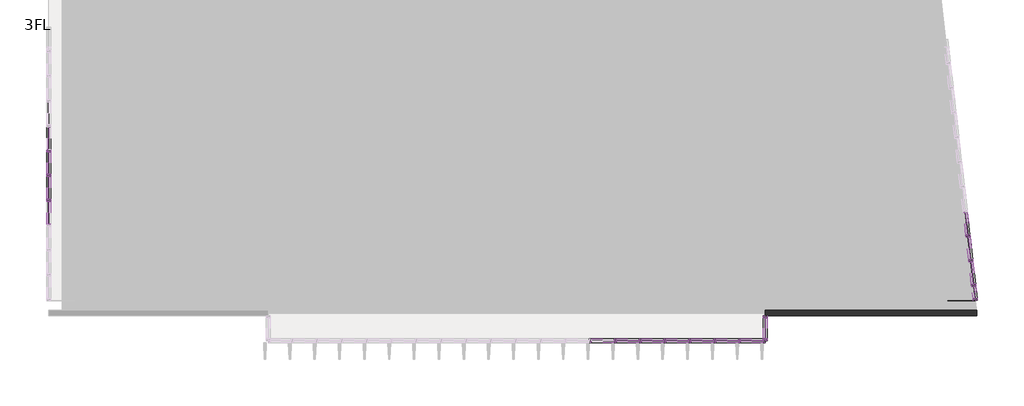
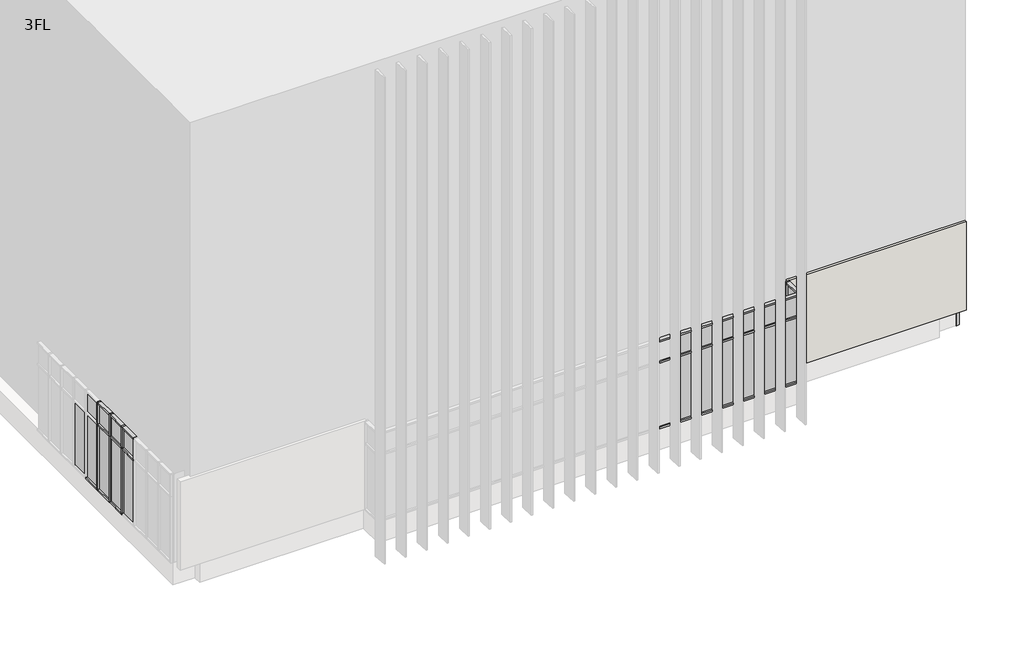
# One storey, part 2 of 5: 85 members, 37 plates, 1 wall.
"""IFC4 building model written with IfcOpenShell, lengths in millimetres."""

from ifc_helpers import new_model, si_unit, frame, origin, place, context, project, spatial, polyline, outline, extrude, transform, mapped, element, save
from components import member_70x150_cdd4dcf9, member_70x150_9a135ce4, member_70x150_66cf63de, member_70x150_26475b18, member_70x150_ad4265bc, member_70x150_e0eddb57, member_70x150_1b280ac3, member_70x150_76429c73, member_70x150_98b0aed0, member_70x150_87b27eb4, plate_d1366ea1, plate_5a60b334, plate_28587fd3, plate_4b01b467, plate_396bcf3c, plate_83f08a3e, plate_46ceffe4, plate_a71482e5, plate_9aa423f5

model = new_model("IFC4")

# Units and contexts
model_context = context("Model", 3, world=origin())
ifc_project = project(units=[si_unit("LENGTHUNIT", "METRE", prefix="MILLI")], contexts=[model_context])

# Site, building, storey
site = spatial("IfcSite", under=ifc_project)
building = spatial("IfcBuilding", under=site)
storey = spatial("IfcBuildingStorey", under=building, Name="3FL", Elevation=8600.0)

# Members
placement = place(None, origin())
member_70x150_shape = member_70x150_cdd4dcf9(model_context)
element("IfcMember", 1, ObjectType="長方形のマリオン : 70x150", at=placement, inside=storey, context=model_context, shape_type="MappedRepresentation", body=[
    mapped(member_70x150_shape, transform((-9730.9784025, -4550.3131013, 8600.0), x_axis=(-1.0, 0.0, 0.0), y_axis=(0.0, 1.0, 0.0), z_axis=(0.0, 0.0, -1.0))),
])
element("IfcMember", 2, ObjectType="長方形のマリオン : 70x150", at=placement, inside=storey, context=model_context, shape_type="MappedRepresentation", body=[
    mapped(member_70x150_shape, transform((-8830.9784025, -4550.3131013, 8600.0), x_axis=(-1.0, 0.0, 0.0), y_axis=(0.0, 1.0, 0.0), z_axis=(0.0, 0.0, -1.0))),
])
element("IfcMember", 3, ObjectType="長方形のマリオン : 70x150", at=placement, inside=storey, context=model_context, shape_type="MappedRepresentation", body=[
    mapped(member_70x150_shape, transform((-7930.9784025, -4550.3131013, 8600.0), x_axis=(-1.0, 0.0, 0.0), y_axis=(0.0, 1.0, 0.0), z_axis=(0.0, 0.0, -1.0))),
])
element("IfcMember", 4, ObjectType="長方形のマリオン : 70x150", at=placement, inside=storey, context=model_context, shape_type="MappedRepresentation", body=[
    mapped(member_70x150_shape, transform((-7030.9784025, -4550.3131013, 8600.0), x_axis=(-1.0, 0.0, 0.0), y_axis=(0.0, 1.0, 0.0), z_axis=(0.0, 0.0, -1.0))),
])
element("IfcMember", 5, ObjectType="長方形のマリオン : 70x150", at=placement, inside=storey, context=model_context, shape_type="MappedRepresentation", body=[
    mapped(member_70x150_shape, transform((-6130.9784025, -4550.3131013, 8600.0), x_axis=(-1.0, 0.0, 0.0), y_axis=(0.0, 1.0, 0.0), z_axis=(0.0, 0.0, -1.0))),
])
element("IfcMember", 6, ObjectType="長方形のマリオン : 70x150", at=placement, inside=storey, context=model_context, shape_type="MappedRepresentation", body=[
    mapped(member_70x150_shape, transform((-5230.9784025, -4550.3131013, 8600.0), x_axis=(-1.0, 0.0, 0.0), y_axis=(0.0, 1.0, 0.0), z_axis=(0.0, 0.0, -1.0))),
])
element("IfcMember", 7, ObjectType="長方形のマリオン : 70x150", at=placement, inside=storey, context=model_context, shape_type="MappedRepresentation", body=[
    mapped(member_70x150_shape, transform((-4330.9784025, -4550.3131013, 8600.0), x_axis=(-1.0, 0.0, 0.0), y_axis=(0.0, 1.0, 0.0), z_axis=(0.0, 0.0, -1.0))),
])
element("IfcMember", 8, ObjectType="長方形のマリオン : 70x150", at=placement, inside=storey, context=model_context, shape_type="MappedRepresentation", body=[
    mapped(member_70x150_shape, transform((-29345.9784025, 2334.6868987, 8600.0), x_axis=(0.0, 1.0, 0.0), y_axis=(1.0, 0.0, 0.0), z_axis=(0.0, 0.0, -1.0))),
])
element("IfcMember", 9, ObjectType="長方形のマリオン : 70x150", at=placement, inside=storey, context=model_context, shape_type="MappedRepresentation", body=[
    mapped(member_70x150_shape, transform((-29345.9784025, 1434.6868987, 8600.0), x_axis=(0.0, 1.0, 0.0), y_axis=(1.0, 0.0, 0.0), z_axis=(0.0, 0.0, -1.0))),
])
element("IfcMember", 10, ObjectType="長方形のマリオン : 70x150", at=placement, inside=storey, context=model_context, shape_type="MappedRepresentation", body=[
    mapped(member_70x150_shape, transform((-29345.9784025, 534.6868987, 8600.0), x_axis=(0.0, 1.0, 0.0), y_axis=(1.0, 0.0, 0.0), z_axis=(0.0, 0.0, -1.0))),
])
member_70x150_2_shape = member_70x150_9a135ce4(model_context)
element("IfcMember", 11, ObjectType="長方形のマリオン : 70x150", at=placement, inside=storey, context=model_context, shape_type="MappedRepresentation", body=[
    mapped(member_70x150_2_shape, transform((-3395.9784025, -4480.3131013, 12600.0), x_axis=(0.0, 0.0, 1.0), y_axis=(-1.0, 0.0, 0.0), z_axis=(0.0, -1.0, 0.0))),
])
member_70x150_3_shape = member_70x150_66cf63de(model_context)
element("IfcMember", 12, ObjectType="長方形のマリオン : 70x150", at=placement, inside=storey, context=model_context, shape_type="MappedRepresentation", body=[
    mapped(member_70x150_3_shape, transform((4049.1663334, -1688.3720639, 7600.0), x_axis=(0.0, 0.0, -1.0), y_axis=(-0.9935326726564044, -0.11354659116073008, 0.0), z_axis=(-0.11354659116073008, 0.9935326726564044, 0.0))),
])
element("IfcMember", 13, ObjectType="長方形のマリオン : 70x150", at=placement, inside=storey, context=model_context, shape_type="MappedRepresentation", body=[
    mapped(member_70x150_3_shape, transform((3946.9744014, -794.1926585, 7600.0), x_axis=(0.0, 0.0, -1.0), y_axis=(-0.9935326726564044, -0.1135465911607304, 0.0), z_axis=(-0.11354659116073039, 0.9935326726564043, 0.0))),
])
element("IfcMember", 14, ObjectType="長方形のマリオン : 70x150", at=placement, inside=storey, context=model_context, shape_type="MappedRepresentation", body=[
    mapped(member_70x150_3_shape, transform((-8865.9784025, -4550.3131013, 8600.0), x_axis=(0.0, 0.0, -1.0), y_axis=(0.0, 1.0, 0.0), z_axis=(1.0, 0.0, 0.0))),
])
element("IfcMember", 15, ObjectType="長方形のマリオン : 70x150", at=placement, inside=storey, context=model_context, shape_type="MappedRepresentation", body=[
    mapped(member_70x150_3_shape, transform((-7965.9784025, -4550.3131013, 8600.0), x_axis=(0.0, 0.0, -1.0), y_axis=(0.0, 1.0, 0.0), z_axis=(1.0, 0.0, 0.0))),
])
element("IfcMember", 16, ObjectType="長方形のマリオン : 70x150", at=placement, inside=storey, context=model_context, shape_type="MappedRepresentation", body=[
    mapped(member_70x150_3_shape, transform((-7065.9784025, -4550.3131013, 8600.0), x_axis=(0.0, 0.0, -1.0), y_axis=(0.0, 1.0, 0.0), z_axis=(1.0, 0.0, 0.0))),
])
element("IfcMember", 17, ObjectType="長方形のマリオン : 70x150", at=placement, inside=storey, context=model_context, shape_type="MappedRepresentation", body=[
    mapped(member_70x150_3_shape, transform((-6165.9784025, -4550.3131013, 8600.0), x_axis=(0.0, 0.0, -1.0), y_axis=(0.0, 1.0, 0.0), z_axis=(1.0, 0.0, 0.0))),
])
element("IfcMember", 18, ObjectType="長方形のマリオン : 70x150", at=placement, inside=storey, context=model_context, shape_type="MappedRepresentation", body=[
    mapped(member_70x150_3_shape, transform((-5265.9784025, -4550.3131013, 8600.0), x_axis=(0.0, 0.0, -1.0), y_axis=(0.0, 1.0, 0.0), z_axis=(1.0, 0.0, 0.0))),
])
element("IfcMember", 19, ObjectType="長方形のマリオン : 70x150", at=placement, inside=storey, context=model_context, shape_type="MappedRepresentation", body=[
    mapped(member_70x150_3_shape, transform((-4365.9784025, -4550.3131013, 8600.0), x_axis=(0.0, 0.0, -1.0), y_axis=(0.0, 1.0, 0.0), z_axis=(1.0, 0.0, 0.0))),
])
element("IfcMember", 20, ObjectType="長方形のマリオン : 70x150", at=placement, inside=storey, context=model_context, shape_type="MappedRepresentation", body=[
    mapped(member_70x150_3_shape, transform((-3465.9784025, -4550.3131013, 8600.0), x_axis=(0.0, 0.0, -1.0), y_axis=(0.0, 1.0, 0.0), z_axis=(1.0, 0.0, 0.0))),
])
element("IfcMember", 21, ObjectType="長方形のマリオン : 70x150", at=placement, inside=storey, context=model_context, shape_type="MappedRepresentation", body=[
    mapped(member_70x150_3_shape, transform((-29345.9784025, 1469.6868987, 8600.0), x_axis=(0.0, 0.0, -1.0), y_axis=(1.0, 0.0, 0.0), z_axis=(0.0, -1.0, 0.0))),
])
element("IfcMember", 22, ObjectType="長方形のマリオン : 70x150", at=placement, inside=storey, context=model_context, shape_type="MappedRepresentation", body=[
    mapped(member_70x150_3_shape, transform((-29345.9784025, 569.6868987, 8600.0), x_axis=(0.0, 0.0, -1.0), y_axis=(1.0, 0.0, 0.0), z_axis=(0.0, -1.0, 0.0))),
])
element("IfcMember", 23, ObjectType="長方形のマリオン : 70x150", at=placement, inside=storey, context=model_context, shape_type="MappedRepresentation", body=[
    mapped(member_70x150_3_shape, transform((-29345.9784025, 2369.6868987, 8600.0), x_axis=(0.0, 0.0, -1.0), y_axis=(1.0, 0.0, 0.0), z_axis=(0.0, -1.0, 0.0))),
])
element("IfcMember", 24, ObjectType="長方形のマリオン : 70x150", at=placement, inside=storey, context=model_context, shape_type="MappedRepresentation", body=[
    mapped(member_70x150_3_shape, transform((4143.4100041, -2513.0041822, 12600.0), x_axis=(0.0, 0.0, 1.0), y_axis=(-0.9935326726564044, -0.11354659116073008, 0.0), z_axis=(0.11354659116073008, -0.9935326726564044, 0.0))),
])
element("IfcMember", 25, ObjectType="長方形のマリオン : 70x150", at=placement, inside=storey, context=model_context, shape_type="MappedRepresentation", body=[
    mapped(member_70x150_3_shape, transform((4041.2180721, -1618.8247768, 12600.0), x_axis=(0.0, 0.0, 1.0), y_axis=(-0.9935326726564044, -0.1135465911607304, 0.0), z_axis=(0.11354659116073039, -0.9935326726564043, 0.0))),
])
element("IfcMember", 26, ObjectType="長方形のマリオン : 70x150", at=placement, inside=storey, context=model_context, shape_type="MappedRepresentation", body=[
    mapped(member_70x150_3_shape, transform((3939.02614, -724.6453714, 12600.0), x_axis=(0.0, 0.0, 1.0), y_axis=(-0.9935326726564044, -0.11354659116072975, 0.0), z_axis=(0.11354659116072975, -0.9935326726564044, 0.0))),
])
element("IfcMember", 27, ObjectType="長方形のマリオン : 70x150", at=placement, inside=storey, context=model_context, shape_type="MappedRepresentation", body=[
    mapped(member_70x150_3_shape, transform((-9695.9784025, -4550.3131013, 12600.0), x_axis=(0.0, 0.0, 1.0), y_axis=(0.0, 1.0, 0.0), z_axis=(-1.0, 0.0, 0.0))),
])
element("IfcMember", 28, ObjectType="長方形のマリオン : 70x150", at=placement, inside=storey, context=model_context, shape_type="MappedRepresentation", body=[
    mapped(member_70x150_3_shape, transform((-8795.9784025, -4550.3131013, 12600.0), x_axis=(0.0, 0.0, 1.0), y_axis=(0.0, 1.0, 0.0), z_axis=(-1.0, 0.0, 0.0))),
])
element("IfcMember", 29, ObjectType="長方形のマリオン : 70x150", at=placement, inside=storey, context=model_context, shape_type="MappedRepresentation", body=[
    mapped(member_70x150_3_shape, transform((-7895.9784025, -4550.3131013, 12600.0), x_axis=(0.0, 0.0, 1.0), y_axis=(0.0, 1.0, 0.0), z_axis=(-1.0, 0.0, 0.0))),
])
element("IfcMember", 30, ObjectType="長方形のマリオン : 70x150", at=placement, inside=storey, context=model_context, shape_type="MappedRepresentation", body=[
    mapped(member_70x150_3_shape, transform((-6995.9784025, -4550.3131013, 12600.0), x_axis=(0.0, 0.0, 1.0), y_axis=(0.0, 1.0, 0.0), z_axis=(-1.0, 0.0, 0.0))),
])
element("IfcMember", 31, ObjectType="長方形のマリオン : 70x150", at=placement, inside=storey, context=model_context, shape_type="MappedRepresentation", body=[
    mapped(member_70x150_3_shape, transform((-6095.9784025, -4550.3131013, 12600.0), x_axis=(0.0, 0.0, 1.0), y_axis=(0.0, 1.0, 0.0), z_axis=(-1.0, 0.0, 0.0))),
])
element("IfcMember", 32, ObjectType="長方形のマリオン : 70x150", at=placement, inside=storey, context=model_context, shape_type="MappedRepresentation", body=[
    mapped(member_70x150_3_shape, transform((-5195.9784025, -4550.3131013, 12600.0), x_axis=(0.0, 0.0, 1.0), y_axis=(0.0, 1.0, 0.0), z_axis=(-1.0, 0.0, 0.0))),
])
element("IfcMember", 33, ObjectType="長方形のマリオン : 70x150", at=placement, inside=storey, context=model_context, shape_type="MappedRepresentation", body=[
    mapped(member_70x150_3_shape, transform((-4295.9784025, -4550.3131013, 12600.0), x_axis=(0.0, 0.0, 1.0), y_axis=(0.0, 1.0, 0.0), z_axis=(-1.0, 0.0, 0.0))),
])
element("IfcMember", 34, ObjectType="長方形のマリオン : 70x150", at=placement, inside=storey, context=model_context, shape_type="MappedRepresentation", body=[
    mapped(member_70x150_3_shape, transform((-29345.9784025, 2299.6868987, 12600.0), x_axis=(0.0, 0.0, 1.0), y_axis=(1.0, 0.0, 0.0), z_axis=(0.0, 1.0, 0.0))),
])
element("IfcMember", 35, ObjectType="長方形のマリオン : 70x150", at=placement, inside=storey, context=model_context, shape_type="MappedRepresentation", body=[
    mapped(member_70x150_3_shape, transform((-29345.9784025, 1399.6868987, 12600.0), x_axis=(0.0, 0.0, 1.0), y_axis=(1.0, 0.0, 0.0), z_axis=(0.0, 1.0, 0.0))),
])
element("IfcMember", 36, ObjectType="長方形のマリオン : 70x150", at=placement, inside=storey, context=model_context, shape_type="MappedRepresentation", body=[
    mapped(member_70x150_3_shape, transform((-29345.9784025, 499.6868987, 12600.0), x_axis=(0.0, 0.0, 1.0), y_axis=(1.0, 0.0, 0.0), z_axis=(0.0, 1.0, 0.0))),
])
element("IfcMember", 37, ObjectType="長方形のマリオン : 70x150", at=placement, inside=storey, context=model_context, shape_type="MappedRepresentation", body=[
    mapped(member_70x150_2_shape, transform((-3395.9784025, -3720.3131013, 8600.0), x_axis=(0.0, 0.0, -1.0), y_axis=(-1.0, 0.0, 0.0), z_axis=(0.0, 1.0, 0.0))),
])
member_70x150_4_shape = member_70x150_26475b18(model_context)
element("IfcMember", 38, ObjectType="長方形のマリオン : 70x150", at=placement, inside=storey, context=model_context, shape_type="MappedRepresentation", body=[
    mapped(member_70x150_4_shape, transform((4045.1922027, -1653.5984203, 11600.0), x_axis=(0.11354659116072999, -0.9935326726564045, 0.0), y_axis=(-0.9935326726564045, -0.11354659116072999, 0.0), z_axis=(0.0, 0.0, -1.0))),
])
element("IfcMember", 39, ObjectType="長方形のマリオン : 70x150", at=placement, inside=storey, context=model_context, shape_type="MappedRepresentation", body=[
    mapped(member_70x150_4_shape, transform((3943.0002707, -759.4190149, 11600.0), x_axis=(0.11354659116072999, -0.9935326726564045, 0.0), y_axis=(-0.9935326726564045, -0.11354659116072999, 0.0), z_axis=(0.0, 0.0, -1.0))),
])
element("IfcMember", 40, ObjectType="長方形のマリオン : 70x150", at=placement, inside=storey, context=model_context, shape_type="MappedRepresentation", body=[
    mapped(member_70x150_4_shape, transform((4147.3841348, -2547.7778257, 11600.0), x_axis=(0.11354659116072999, -0.9935326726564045, 0.0), y_axis=(-0.9935326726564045, -0.11354659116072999, 0.0), z_axis=(0.0, 0.0, -1.0))),
])
element("IfcMember", 41, ObjectType="長方形のマリオン : 70x150", at=placement, inside=storey, context=model_context, shape_type="MappedRepresentation", body=[
    mapped(member_70x150_4_shape, transform((-8830.9784025, -4550.3131013, 11600.0), x_axis=(-1.0, 0.0, 0.0), y_axis=(0.0, 1.0, 0.0), z_axis=(0.0, 0.0, -1.0))),
])
element("IfcMember", 42, ObjectType="長方形のマリオン : 70x150", at=placement, inside=storey, context=model_context, shape_type="MappedRepresentation", body=[
    mapped(member_70x150_4_shape, transform((-7930.9784025, -4550.3131013, 11600.0), x_axis=(-1.0, 0.0, 0.0), y_axis=(0.0, 1.0, 0.0), z_axis=(0.0, 0.0, -1.0))),
])
element("IfcMember", 43, ObjectType="長方形のマリオン : 70x150", at=placement, inside=storey, context=model_context, shape_type="MappedRepresentation", body=[
    mapped(member_70x150_4_shape, transform((-7030.9784025, -4550.3131013, 11600.0), x_axis=(-1.0, 0.0, 0.0), y_axis=(0.0, 1.0, 0.0), z_axis=(0.0, 0.0, -1.0))),
])
element("IfcMember", 44, ObjectType="長方形のマリオン : 70x150", at=placement, inside=storey, context=model_context, shape_type="MappedRepresentation", body=[
    mapped(member_70x150_4_shape, transform((-6130.9784025, -4550.3131013, 11600.0), x_axis=(-1.0, 0.0, 0.0), y_axis=(0.0, 1.0, 0.0), z_axis=(0.0, 0.0, -1.0))),
])
element("IfcMember", 45, ObjectType="長方形のマリオン : 70x150", at=placement, inside=storey, context=model_context, shape_type="MappedRepresentation", body=[
    mapped(member_70x150_4_shape, transform((-5230.9784025, -4550.3131013, 11600.0), x_axis=(-1.0, 0.0, 0.0), y_axis=(0.0, 1.0, 0.0), z_axis=(0.0, 0.0, -1.0))),
])
element("IfcMember", 46, ObjectType="長方形のマリオン : 70x150", at=placement, inside=storey, context=model_context, shape_type="MappedRepresentation", body=[
    mapped(member_70x150_4_shape, transform((-4330.9784025, -4550.3131013, 11600.0), x_axis=(-1.0, 0.0, 0.0), y_axis=(0.0, 1.0, 0.0), z_axis=(0.0, 0.0, -1.0))),
])
element("IfcMember", 47, ObjectType="長方形のマリオン : 70x150", at=placement, inside=storey, context=model_context, shape_type="MappedRepresentation", body=[
    mapped(member_70x150_4_shape, transform((-29345.9784025, 2334.6868987, 11600.0), x_axis=(0.0, 1.0, 0.0), y_axis=(1.0, 0.0, 0.0), z_axis=(0.0, 0.0, -1.0))),
])
element("IfcMember", 48, ObjectType="長方形のマリオン : 70x150", at=placement, inside=storey, context=model_context, shape_type="MappedRepresentation", body=[
    mapped(member_70x150_4_shape, transform((-29345.9784025, 1434.6868987, 11600.0), x_axis=(0.0, 1.0, 0.0), y_axis=(1.0, 0.0, 0.0), z_axis=(0.0, 0.0, -1.0))),
])
element("IfcMember", 49, ObjectType="長方形のマリオン : 70x150", at=placement, inside=storey, context=model_context, shape_type="MappedRepresentation", body=[
    mapped(member_70x150_4_shape, transform((-29345.9784025, 534.6868987, 11600.0), x_axis=(0.0, 1.0, 0.0), y_axis=(1.0, 0.0, 0.0), z_axis=(0.0, 0.0, -1.0))),
])
member_70x150_5_shape = member_70x150_ad4265bc(model_context)
element("IfcMember", 50, ObjectType="長方形のマリオン : 70x150", at=placement, inside=storey, context=model_context, shape_type="MappedRepresentation", body=[
    mapped(member_70x150_5_shape, transform((4143.4100041, -2513.0041822, 8600.0), x_axis=(0.0, 0.0, 1.0), y_axis=(-0.9935326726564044, -0.11354659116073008, 0.0), z_axis=(0.11354659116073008, -0.9935326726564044, 0.0))),
])
element("IfcMember", 51, ObjectType="長方形のマリオン : 70x150", at=placement, inside=storey, context=model_context, shape_type="MappedRepresentation", body=[
    mapped(member_70x150_5_shape, transform((4041.2180721, -1618.8247768, 8600.0), x_axis=(0.0, 0.0, 1.0), y_axis=(-0.9935326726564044, -0.1135465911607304, 0.0), z_axis=(0.11354659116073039, -0.9935326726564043, 0.0))),
])
element("IfcMember", 52, ObjectType="長方形のマリオン : 70x150", at=placement, inside=storey, context=model_context, shape_type="MappedRepresentation", body=[
    mapped(member_70x150_5_shape, transform((3939.02614, -724.6453714, 8600.0), x_axis=(0.0, 0.0, 1.0), y_axis=(-0.9935326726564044, -0.11354659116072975, 0.0), z_axis=(0.11354659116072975, -0.9935326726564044, 0.0))),
])
element("IfcMember", 53, ObjectType="長方形のマリオン : 70x150", at=placement, inside=storey, context=model_context, shape_type="MappedRepresentation", body=[
    mapped(member_70x150_5_shape, transform((3939.02614, -724.6453714, 11600.0), x_axis=(0.0, 0.0, 1.0), y_axis=(-0.9935326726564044, -0.11354659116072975, 0.0), z_axis=(0.11354659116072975, -0.9935326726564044, 0.0))),
])
element("IfcMember", 54, ObjectType="長方形のマリオン : 70x150", at=placement, inside=storey, context=model_context, shape_type="MappedRepresentation", body=[
    mapped(member_70x150_5_shape, transform((4143.4100041, -2513.0041822, 11600.0), x_axis=(0.0, 0.0, 1.0), y_axis=(-0.9935326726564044, -0.11354659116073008, 0.0), z_axis=(0.11354659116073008, -0.9935326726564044, 0.0))),
])
element("IfcMember", 55, ObjectType="長方形のマリオン : 70x150", at=placement, inside=storey, context=model_context, shape_type="MappedRepresentation", body=[
    mapped(member_70x150_5_shape, transform((4041.2180721, -1618.8247768, 11600.0), x_axis=(0.0, 0.0, 1.0), y_axis=(-0.9935326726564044, -0.1135465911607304, 0.0), z_axis=(0.11354659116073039, -0.9935326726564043, 0.0))),
])
element("IfcMember", 56, ObjectType="長方形のマリオン : 70x150", at=placement, inside=storey, context=model_context, shape_type="MappedRepresentation", body=[
    mapped(member_70x150_5_shape, transform((-9695.9784025, -4550.3131013, 11600.0), x_axis=(0.0, 0.0, 1.0), y_axis=(0.0, 1.0, 0.0), z_axis=(-1.0, 0.0, 0.0))),
])
element("IfcMember", 57, ObjectType="長方形のマリオン : 70x150", at=placement, inside=storey, context=model_context, shape_type="MappedRepresentation", body=[
    mapped(member_70x150_5_shape, transform((-8795.9784025, -4550.3131013, 11600.0), x_axis=(0.0, 0.0, 1.0), y_axis=(0.0, 1.0, 0.0), z_axis=(-1.0, 0.0, 0.0))),
])
element("IfcMember", 58, ObjectType="長方形のマリオン : 70x150", at=placement, inside=storey, context=model_context, shape_type="MappedRepresentation", body=[
    mapped(member_70x150_5_shape, transform((-7895.9784025, -4550.3131013, 11600.0), x_axis=(0.0, 0.0, 1.0), y_axis=(0.0, 1.0, 0.0), z_axis=(-1.0, 0.0, 0.0))),
])
element("IfcMember", 59, ObjectType="長方形のマリオン : 70x150", at=placement, inside=storey, context=model_context, shape_type="MappedRepresentation", body=[
    mapped(member_70x150_5_shape, transform((-6995.9784025, -4550.3131013, 11600.0), x_axis=(0.0, 0.0, 1.0), y_axis=(0.0, 1.0, 0.0), z_axis=(-1.0, 0.0, 0.0))),
])
element("IfcMember", 60, ObjectType="長方形のマリオン : 70x150", at=placement, inside=storey, context=model_context, shape_type="MappedRepresentation", body=[
    mapped(member_70x150_5_shape, transform((-6095.9784025, -4550.3131013, 11600.0), x_axis=(0.0, 0.0, 1.0), y_axis=(0.0, 1.0, 0.0), z_axis=(-1.0, 0.0, 0.0))),
])
element("IfcMember", 61, ObjectType="長方形のマリオン : 70x150", at=placement, inside=storey, context=model_context, shape_type="MappedRepresentation", body=[
    mapped(member_70x150_5_shape, transform((-5195.9784025, -4550.3131013, 11600.0), x_axis=(0.0, 0.0, 1.0), y_axis=(0.0, 1.0, 0.0), z_axis=(-1.0, 0.0, 0.0))),
])
element("IfcMember", 62, ObjectType="長方形のマリオン : 70x150", at=placement, inside=storey, context=model_context, shape_type="MappedRepresentation", body=[
    mapped(member_70x150_5_shape, transform((-4295.9784025, -4550.3131013, 11600.0), x_axis=(0.0, 0.0, 1.0), y_axis=(0.0, 1.0, 0.0), z_axis=(-1.0, 0.0, 0.0))),
])
element("IfcMember", 63, ObjectType="長方形のマリオン : 70x150", at=placement, inside=storey, context=model_context, shape_type="MappedRepresentation", body=[
    mapped(member_70x150_5_shape, transform((-29345.9784025, 2299.6868987, 11600.0), x_axis=(0.0, 0.0, 1.0), y_axis=(1.0, 0.0, 0.0), z_axis=(0.0, 1.0, 0.0))),
])
element("IfcMember", 64, ObjectType="長方形のマリオン : 70x150", at=placement, inside=storey, context=model_context, shape_type="MappedRepresentation", body=[
    mapped(member_70x150_5_shape, transform((-29345.9784025, 1399.6868987, 11600.0), x_axis=(0.0, 0.0, 1.0), y_axis=(1.0, 0.0, 0.0), z_axis=(0.0, 1.0, 0.0))),
])
element("IfcMember", 65, ObjectType="長方形のマリオン : 70x150", at=placement, inside=storey, context=model_context, shape_type="MappedRepresentation", body=[
    mapped(member_70x150_5_shape, transform((-29345.9784025, 499.6868987, 11600.0), x_axis=(0.0, 0.0, 1.0), y_axis=(1.0, 0.0, 0.0), z_axis=(0.0, 1.0, 0.0))),
])
member_70x150_6_shape = member_70x150_e0eddb57(model_context)
element("IfcMember", 66, ObjectType="長方形のマリオン : 70x150", at=placement, inside=storey, context=model_context, shape_type="MappedRepresentation", body=[
    mapped(member_70x150_6_shape, transform((-3395.9784025, -4480.3131013, 11600.0), x_axis=(0.0, 0.0, 1.0), y_axis=(-1.0, 0.0, 0.0), z_axis=(0.0, -1.0, 0.0))),
])
member_70x150_7_shape = member_70x150_1b280ac3(model_context)
element("IfcMember", 67, ObjectType="長方形のマリオン : 70x150", at=placement, inside=storey, context=model_context, shape_type="MappedRepresentation", body=[
    mapped(member_70x150_7_shape, transform((-3395.9784025, -4550.3131013, 8600.0), x_axis=(0.0, -1.0, 0.0), y_axis=(-1.0, 0.0, 0.0), z_axis=(0.0, 0.0, -1.0))),
])
member_70x150_8_shape = member_70x150_76429c73(model_context)
element("IfcMember", 68, ObjectType="長方形のマリオン : 70x150", at=placement, inside=storey, context=model_context, shape_type="MappedRepresentation", body=[
    mapped(member_70x150_8_shape, transform((-3395.9784025, -4550.3131013, 12600.0), x_axis=(1.0, 0.0, 0.0), y_axis=(0.0, 1.0, 0.0), z_axis=(0.0, 0.0, 1.0))),
])
element("IfcMember", 69, ObjectType="長方形のマリオン : 70x150", at=placement, inside=storey, context=model_context, shape_type="MappedRepresentation", body=[
    mapped(member_70x150_8_shape, transform((-3395.9784025, -3650.3131013, 12600.0), x_axis=(0.0, 1.0, 0.0), y_axis=(-1.0, 0.0, 0.0), z_axis=(0.0, 0.0, 1.0))),
])
element("IfcMember", 70, ObjectType="長方形のマリオン : 70x150", at=placement, inside=storey, context=model_context, shape_type="MappedRepresentation", body=[
    mapped(member_70x150_8_shape, transform((4210.5310234, -3100.3131013, 11600.0), x_axis=(0.11354659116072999, -0.9935326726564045, 0.0), y_axis=(-0.9935326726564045, -0.11354659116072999, 0.0), z_axis=(0.0, 0.0, -1.0))),
])
element("IfcMember", 71, ObjectType="長方形のマリオン : 70x150", at=placement, inside=storey, context=model_context, shape_type="MappedRepresentation", body=[
    mapped(member_70x150_8_shape, transform((-3395.9784025, -4550.3131013, 11600.0), x_axis=(0.0, -1.0, 0.0), y_axis=(-1.0, 0.0, 0.0), z_axis=(0.0, 0.0, -1.0))),
])
element("IfcMember", 72, ObjectType="長方形のマリオン : 70x150", at=placement, inside=storey, context=model_context, shape_type="MappedRepresentation", body=[
    mapped(member_70x150_7_shape, transform((-3395.9784025, -4550.3131013, 11600.0), x_axis=(1.0, 0.0, 0.0), y_axis=(0.0, 1.0, 0.0), z_axis=(0.0, 0.0, 1.0))),
])
element("IfcMember", 73, ObjectType="長方形のマリオン : 70x150", at=placement, inside=storey, context=model_context, shape_type="MappedRepresentation", body=[
    mapped(member_70x150_7_shape, transform((-3395.9784025, -3650.3131013, 11600.0), x_axis=(0.0, 1.0, 0.0), y_axis=(-1.0, 0.0, 0.0), z_axis=(0.0, 0.0, 1.0))),
])
member_70x150_9_shape = member_70x150_98b0aed0(model_context)
element("IfcMember", 74, ObjectType="長方形のマリオン : 70x150", at=placement, inside=storey, context=model_context, shape_type="MappedRepresentation", body=[
    mapped(member_70x150_9_shape, transform((4202.582762, -3030.7658142, 12600.0), x_axis=(0.0, 0.0, 1.0), y_axis=(-0.9935326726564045, -0.11354659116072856, 0.0), z_axis=(0.11354659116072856, -0.9935326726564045, 0.0))),
])
element("IfcMember", 75, ObjectType="長方形のマリオン : 70x150", at=placement, inside=storey, context=model_context, shape_type="MappedRepresentation", body=[
    mapped(member_70x150_9_shape, transform((4151.3582655, -2582.5514692, 7600.0), x_axis=(0.0, 0.0, -1.0), y_axis=(-0.9935326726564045, -0.11354659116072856, 0.0), z_axis=(-0.11354659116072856, 0.9935326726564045, 0.0))),
])
member_70x150_10_shape = member_70x150_87b27eb4(model_context)
element("IfcMember", 76, ObjectType="長方形のマリオン : 70x150", at=placement, inside=storey, context=model_context, shape_type="MappedRepresentation", body=[
    mapped(member_70x150_10_shape, transform((4202.582762, -3030.7658142, 8600.0), x_axis=(0.0, 0.0, 1.0), y_axis=(-0.9935326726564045, -0.11354659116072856, 0.0), z_axis=(0.11354659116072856, -0.9935326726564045, 0.0))),
])
element("IfcMember", 77, ObjectType="長方形のマリオン : 70x150", at=placement, inside=storey, context=model_context, shape_type="MappedRepresentation", body=[
    mapped(member_70x150_10_shape, transform((4202.582762, -3030.7658142, 11600.0), x_axis=(0.0, 0.0, 1.0), y_axis=(-0.9935326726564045, -0.11354659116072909, 0.0), z_axis=(0.11354659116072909, -0.9935326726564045, 0.0))),
])
element("IfcMember", 78, ObjectType="長方形のマリオン : 70x150", at=placement, inside=storey, context=model_context, shape_type="MappedRepresentation", body=[
    mapped(member_70x150_4_shape, transform((4045.1922027, -1653.5984203, 7600.0), x_axis=(0.11354659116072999, -0.9935326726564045, 0.0), y_axis=(-0.9935326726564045, -0.11354659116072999, 0.0), z_axis=(0.0, 0.0, -1.0))),
])
element("IfcMember", 79, ObjectType="長方形のマリオン : 70x150", at=placement, inside=storey, context=model_context, shape_type="MappedRepresentation", body=[
    mapped(member_70x150_4_shape, transform((3943.0002707, -759.4190149, 7600.0), x_axis=(0.11354659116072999, -0.9935326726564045, 0.0), y_axis=(-0.9935326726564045, -0.11354659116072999, 0.0), z_axis=(0.0, 0.0, -1.0))),
])
element("IfcMember", 80, ObjectType="長方形のマリオン : 70x150", at=placement, inside=storey, context=model_context, shape_type="MappedRepresentation", body=[
    mapped(member_70x150_4_shape, transform((4147.3841348, -2547.7778257, 7600.0), x_axis=(0.11354659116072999, -0.9935326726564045, 0.0), y_axis=(-0.9935326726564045, -0.11354659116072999, 0.0), z_axis=(0.0, 0.0, -1.0))),
])
element("IfcMember", 81, ObjectType="長方形のマリオン : 70x150", at=placement, inside=storey, context=model_context, shape_type="MappedRepresentation", body=[
    mapped(member_70x150_shape, transform((3943.0002707, -759.4190149, 8600.0), x_axis=(0.11354659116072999, -0.9935326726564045, 0.0), y_axis=(-0.9935326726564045, -0.11354659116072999, 0.0), z_axis=(0.0, 0.0, -1.0))),
])
element("IfcMember", 82, ObjectType="長方形のマリオン : 70x150", at=placement, inside=storey, context=model_context, shape_type="MappedRepresentation", body=[
    mapped(member_70x150_shape, transform((4147.3841348, -2547.7778257, 8600.0), x_axis=(0.11354659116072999, -0.9935326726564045, 0.0), y_axis=(-0.9935326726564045, -0.11354659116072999, 0.0), z_axis=(0.0, 0.0, -1.0))),
])
element("IfcMember", 83, ObjectType="長方形のマリオン : 70x150", at=placement, inside=storey, context=model_context, shape_type="MappedRepresentation", body=[
    mapped(member_70x150_shape, transform((4045.1922027, -1653.5984203, 8600.0), x_axis=(0.11354659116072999, -0.9935326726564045, 0.0), y_axis=(-0.9935326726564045, -0.11354659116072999, 0.0), z_axis=(0.0, 0.0, -1.0))),
])
element("IfcMember", 84, ObjectType="長方形のマリオン : 70x150", at=placement, inside=storey, context=model_context, shape_type="MappedRepresentation", body=[
    mapped(member_70x150_8_shape, transform((4210.5310234, -3100.3131013, 7600.0), x_axis=(0.11354659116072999, -0.9935326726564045, 0.0), y_axis=(-0.9935326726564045, -0.11354659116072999, 0.0), z_axis=(0.0, 0.0, -1.0))),
])
element("IfcMember", 85, ObjectType="長方形のマリオン : 70x150", at=placement, inside=storey, context=model_context, shape_type="MappedRepresentation", body=[
    mapped(member_70x150_7_shape, transform((4210.5310234, -3100.3131013, 8600.0), x_axis=(0.11354659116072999, -0.9935326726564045, 0.0), y_axis=(-0.9935326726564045, -0.11354659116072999, 0.0), z_axis=(0.0, 0.0, -1.0))),
])

# Plates
plate_shape = plate_d1366ea1(model_context)
element("IfcPlate", 86, ObjectType="システム パネル : 標準", at=placement, inside=storey, context=model_context, shape_type="MappedRepresentation", body=[
    mapped(plate_shape, transform((3760.5310234, -3100.3131013, 8600.0), x_axis=(-1.0, 0.0, 0.0), y_axis=(0.0, -1.0, 0.0), z_axis=(0.0, 0.0, 1.0))),
])
plate_2_shape = plate_5a60b334(model_context)
element("IfcPlate", 87, ObjectType="システム パネル : 標準", at=placement, inside=storey, context=model_context, shape_type="MappedRepresentation", body=[
    mapped(plate_2_shape, transform((3257.2763105, -3100.3131013, 8600.0), x_axis=(-1.0, 0.0, 0.0), y_axis=(0.0, -1.0, 0.0), z_axis=(0.0, 0.0, 1.0))),
])
plate_3_shape = plate_28587fd3(model_context)
element("IfcPlate", 88, ObjectType="システム パネル : 標準", at=placement, inside=storey, context=model_context, shape_type="MappedRepresentation", body=[
    mapped(plate_3_shape, transform((-29345.9784025, 84.6868987, 8670.0), x_axis=(0.0, 1.0, 0.0), y_axis=(-1.0, 0.0, 0.0), z_axis=(0.0, 0.0, 1.0))),
])
element("IfcPlate", 89, ObjectType="システム パネル : 標準", at=placement, inside=storey, context=model_context, shape_type="MappedRepresentation", body=[
    mapped(plate_3_shape, transform((-29345.9784025, 984.6868987, 8670.0), x_axis=(0.0, 1.0, 0.0), y_axis=(-1.0, 0.0, 0.0), z_axis=(0.0, 0.0, 1.0))),
])
element("IfcPlate", 90, ObjectType="システム パネル : 標準", at=placement, inside=storey, context=model_context, shape_type="MappedRepresentation", body=[
    mapped(plate_3_shape, transform((-29345.9784025, 1884.6868987, 8670.0), x_axis=(0.0, 1.0, 0.0), y_axis=(-1.0, 0.0, 0.0), z_axis=(0.0, 0.0, 1.0))),
])
element("IfcPlate", 91, ObjectType="システム パネル : 標準", at=placement, inside=storey, context=model_context, shape_type="MappedRepresentation", body=[
    mapped(plate_3_shape, transform((-29345.9784025, 2784.6868987, 8670.0), x_axis=(0.0, 1.0, 0.0), y_axis=(-1.0, 0.0, 0.0), z_axis=(0.0, 0.0, 1.0))),
])
element("IfcPlate", 92, ObjectType="システム パネル : 標準", at=placement, inside=storey, context=model_context, shape_type="MappedRepresentation", body=[
    mapped(plate_3_shape, transform((-29345.9784025, 3684.6868987, 8670.0), x_axis=(0.0, 1.0, 0.0), y_axis=(-1.0, 0.0, 0.0), z_axis=(0.0, 0.0, 1.0))),
])
element("IfcPlate", 93, ObjectType="システム パネル : 標準", at=placement, inside=storey, context=model_context, shape_type="MappedRepresentation", body=[
    mapped(plate_3_shape, transform((-3880.9784025, -4550.3131013, 8670.0), x_axis=(-1.0, 0.0, 0.0), y_axis=(0.0, -1.0, 0.0), z_axis=(0.0, 0.0, 1.0))),
])
element("IfcPlate", 94, ObjectType="システム パネル : 標準", at=placement, inside=storey, context=model_context, shape_type="MappedRepresentation", body=[
    mapped(plate_3_shape, transform((-4780.9784025, -4550.3131013, 8670.0), x_axis=(-1.0, 0.0, 0.0), y_axis=(0.0, -1.0, 0.0), z_axis=(0.0, 0.0, 1.0))),
])
element("IfcPlate", 95, ObjectType="システム パネル : 標準", at=placement, inside=storey, context=model_context, shape_type="MappedRepresentation", body=[
    mapped(plate_3_shape, transform((-5680.9784025, -4550.3131013, 8670.0), x_axis=(-1.0, 0.0, 0.0), y_axis=(0.0, -1.0, 0.0), z_axis=(0.0, 0.0, 1.0))),
])
element("IfcPlate", 96, ObjectType="システム パネル : 標準", at=placement, inside=storey, context=model_context, shape_type="MappedRepresentation", body=[
    mapped(plate_3_shape, transform((-6580.9784025, -4550.3131013, 8670.0), x_axis=(-1.0, 0.0, 0.0), y_axis=(0.0, -1.0, 0.0), z_axis=(0.0, 0.0, 1.0))),
])
element("IfcPlate", 97, ObjectType="システム パネル : 標準", at=placement, inside=storey, context=model_context, shape_type="MappedRepresentation", body=[
    mapped(plate_3_shape, transform((-7480.9784025, -4550.3131013, 8670.0), x_axis=(-1.0, 0.0, 0.0), y_axis=(0.0, -1.0, 0.0), z_axis=(0.0, 0.0, 1.0))),
])
element("IfcPlate", 98, ObjectType="システム パネル : 標準", at=placement, inside=storey, context=model_context, shape_type="MappedRepresentation", body=[
    mapped(plate_3_shape, transform((-8380.9784025, -4550.3131013, 8670.0), x_axis=(-1.0, 0.0, 0.0), y_axis=(0.0, -1.0, 0.0), z_axis=(0.0, 0.0, 1.0))),
])
plate_4_shape = plate_4b01b467(model_context)
element("IfcPlate", 99, ObjectType="システム パネル : 標準", at=placement, inside=storey, context=model_context, shape_type="MappedRepresentation", body=[
    mapped(plate_4_shape, transform((-3395.9784025, -4100.3131013, 8670.0), x_axis=(0.0, -1.0, 0.0), y_axis=(1.0, 0.0, 0.0), z_axis=(0.0, 0.0, 1.0))),
])
plate_5_shape = plate_396bcf3c(model_context)
element("IfcPlate", 100, ObjectType="システム パネル : 標準", at=placement, inside=storey, context=model_context, shape_type="MappedRepresentation", body=[
    mapped(plate_5_shape, transform((3891.9043047, -312.3293122, 7670.0), x_axis=(0.11354659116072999, -0.9935326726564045, 0.0), y_axis=(0.9935326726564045, 0.11354659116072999, 0.0), z_axis=(0.0, 0.0, 1.0))),
])
element("IfcPlate", 101, ObjectType="システム パネル : 標準", at=placement, inside=storey, context=model_context, shape_type="MappedRepresentation", body=[
    mapped(plate_5_shape, transform((3994.0962367, -1206.5087176, 7670.0), x_axis=(0.11354659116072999, -0.9935326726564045, 0.0), y_axis=(0.9935326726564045, 0.11354659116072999, 0.0), z_axis=(0.0, 0.0, 1.0))),
])
element("IfcPlate", 102, ObjectType="システム パネル : 標準", at=placement, inside=storey, context=model_context, shape_type="MappedRepresentation", body=[
    mapped(plate_5_shape, transform((4096.2881688, -2100.688123, 7670.0), x_axis=(0.11354659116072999, -0.9935326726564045, 0.0), y_axis=(0.9935326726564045, 0.11354659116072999, 0.0), z_axis=(0.0, 0.0, 1.0))),
])
element("IfcPlate", 103, ObjectType="システム パネル : 標準", at=placement, inside=storey, context=model_context, shape_type="MappedRepresentation", body=[
    mapped(plate_5_shape, transform((3891.9043047, -312.3293122, 11635.0), x_axis=(0.11354659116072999, -0.9935326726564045, 0.0), y_axis=(0.9935326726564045, 0.11354659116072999, 0.0), z_axis=(0.0, 0.0, 1.0))),
])
element("IfcPlate", 104, ObjectType="システム パネル : 標準", at=placement, inside=storey, context=model_context, shape_type="MappedRepresentation", body=[
    mapped(plate_5_shape, transform((3994.0962367, -1206.5087176, 11635.0), x_axis=(0.11354659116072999, -0.9935326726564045, 0.0), y_axis=(0.9935326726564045, 0.11354659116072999, 0.0), z_axis=(0.0, 0.0, 1.0))),
])
element("IfcPlate", 105, ObjectType="システム パネル : 標準", at=placement, inside=storey, context=model_context, shape_type="MappedRepresentation", body=[
    mapped(plate_5_shape, transform((4096.2881688, -2100.688123, 11635.0), x_axis=(0.11354659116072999, -0.9935326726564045, 0.0), y_axis=(0.9935326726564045, 0.11354659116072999, 0.0), z_axis=(0.0, 0.0, 1.0))),
])
element("IfcPlate", 106, ObjectType="システム パネル : 標準", at=placement, inside=storey, context=model_context, shape_type="MappedRepresentation", body=[
    mapped(plate_5_shape, transform((-3880.9784025, -4550.3131013, 11635.0), x_axis=(-1.0, 0.0, 0.0), y_axis=(0.0, -1.0, 0.0), z_axis=(0.0, 0.0, 1.0))),
])
element("IfcPlate", 107, ObjectType="システム パネル : 標準", at=placement, inside=storey, context=model_context, shape_type="MappedRepresentation", body=[
    mapped(plate_5_shape, transform((-4780.9784025, -4550.3131013, 11635.0), x_axis=(-1.0, 0.0, 0.0), y_axis=(0.0, -1.0, 0.0), z_axis=(0.0, 0.0, 1.0))),
])
element("IfcPlate", 108, ObjectType="システム パネル : 標準", at=placement, inside=storey, context=model_context, shape_type="MappedRepresentation", body=[
    mapped(plate_5_shape, transform((-5680.9784025, -4550.3131013, 11635.0), x_axis=(-1.0, 0.0, 0.0), y_axis=(0.0, -1.0, 0.0), z_axis=(0.0, 0.0, 1.0))),
])
element("IfcPlate", 109, ObjectType="システム パネル : 標準", at=placement, inside=storey, context=model_context, shape_type="MappedRepresentation", body=[
    mapped(plate_5_shape, transform((-6580.9784025, -4550.3131013, 11635.0), x_axis=(-1.0, 0.0, 0.0), y_axis=(0.0, -1.0, 0.0), z_axis=(0.0, 0.0, 1.0))),
])
element("IfcPlate", 110, ObjectType="システム パネル : 標準", at=placement, inside=storey, context=model_context, shape_type="MappedRepresentation", body=[
    mapped(plate_5_shape, transform((-7480.9784025, -4550.3131013, 11635.0), x_axis=(-1.0, 0.0, 0.0), y_axis=(0.0, -1.0, 0.0), z_axis=(0.0, 0.0, 1.0))),
])
element("IfcPlate", 111, ObjectType="システム パネル : 標準", at=placement, inside=storey, context=model_context, shape_type="MappedRepresentation", body=[
    mapped(plate_5_shape, transform((-8380.9784025, -4550.3131013, 11635.0), x_axis=(-1.0, 0.0, 0.0), y_axis=(0.0, -1.0, 0.0), z_axis=(0.0, 0.0, 1.0))),
])
element("IfcPlate", 112, ObjectType="システム パネル : 標準", at=placement, inside=storey, context=model_context, shape_type="MappedRepresentation", body=[
    mapped(plate_5_shape, transform((-29345.9784025, 84.6868987, 11635.0), x_axis=(0.0, 1.0, 0.0), y_axis=(-1.0, 0.0, 0.0), z_axis=(0.0, 0.0, 1.0))),
])
element("IfcPlate", 113, ObjectType="システム パネル : 標準", at=placement, inside=storey, context=model_context, shape_type="MappedRepresentation", body=[
    mapped(plate_5_shape, transform((-29345.9784025, 984.6868987, 11635.0), x_axis=(0.0, 1.0, 0.0), y_axis=(-1.0, 0.0, 0.0), z_axis=(0.0, 0.0, 1.0))),
])
element("IfcPlate", 114, ObjectType="システム パネル : 標準", at=placement, inside=storey, context=model_context, shape_type="MappedRepresentation", body=[
    mapped(plate_5_shape, transform((-29345.9784025, 1884.6868987, 11635.0), x_axis=(0.0, 1.0, 0.0), y_axis=(-1.0, 0.0, 0.0), z_axis=(0.0, 0.0, 1.0))),
])
element("IfcPlate", 115, ObjectType="システム パネル : 標準", at=placement, inside=storey, context=model_context, shape_type="MappedRepresentation", body=[
    mapped(plate_5_shape, transform((-29345.9784025, 2784.6868987, 11635.0), x_axis=(0.0, 1.0, 0.0), y_axis=(-1.0, 0.0, 0.0), z_axis=(0.0, 0.0, 1.0))),
])
plate_6_shape = plate_83f08a3e(model_context)
element("IfcPlate", 116, ObjectType="システム パネル : 標準", at=placement, inside=storey, context=model_context, shape_type="MappedRepresentation", body=[
    mapped(plate_6_shape, transform((-3395.9784025, -4100.3131013, 11635.0), x_axis=(0.0, -1.0, 0.0), y_axis=(1.0, 0.0, 0.0), z_axis=(0.0, 0.0, 1.0))),
])
plate_7_shape = plate_46ceffe4(model_context)
element("IfcPlate", 117, ObjectType="システム パネル : 標準", at=placement, inside=storey, context=model_context, shape_type="MappedRepresentation", body=[
    mapped(plate_7_shape, transform((4176.9705138, -2806.6586417, 7670.0), x_axis=(0.11354659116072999, -0.9935326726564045, 0.0), y_axis=(0.9935326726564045, 0.11354659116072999, 0.0), z_axis=(0.0, 0.0, 1.0))),
])
element("IfcPlate", 118, ObjectType="システム パネル : 標準", at=placement, inside=storey, context=model_context, shape_type="MappedRepresentation", body=[
    mapped(plate_7_shape, transform((4176.9705138, -2806.6586417, 11635.0), x_axis=(0.11354659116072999, -0.9935326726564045, 0.0), y_axis=(0.9935326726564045, 0.11354659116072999, 0.0), z_axis=(0.0, 0.0, 1.0))),
])
plate_8_shape = plate_a71482e5(model_context)
element("IfcPlate", 119, ObjectType="システム パネル : 標準", at=placement, inside=storey, context=model_context, shape_type="MappedRepresentation", body=[
    mapped(plate_8_shape, transform((3891.9043047, -312.3293122, 8635.0), x_axis=(0.11354659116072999, -0.9935326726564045, 0.0), y_axis=(0.9935326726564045, 0.11354659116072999, 0.0), z_axis=(0.0, 0.0, 1.0))),
])
element("IfcPlate", 120, ObjectType="システム パネル : 標準", at=placement, inside=storey, context=model_context, shape_type="MappedRepresentation", body=[
    mapped(plate_8_shape, transform((3994.0962367, -1206.5087176, 8635.0), x_axis=(0.11354659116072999, -0.9935326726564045, 0.0), y_axis=(0.9935326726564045, 0.11354659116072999, 0.0), z_axis=(0.0, 0.0, 1.0))),
])
element("IfcPlate", 121, ObjectType="システム パネル : 標準", at=placement, inside=storey, context=model_context, shape_type="MappedRepresentation", body=[
    mapped(plate_8_shape, transform((4096.2881688, -2100.688123, 8635.0), x_axis=(0.11354659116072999, -0.9935326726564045, 0.0), y_axis=(0.9935326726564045, 0.11354659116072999, 0.0), z_axis=(0.0, 0.0, 1.0))),
])
plate_9_shape = plate_9aa423f5(model_context)
element("IfcPlate", 122, ObjectType="システム パネル : 標準", at=placement, inside=storey, context=model_context, shape_type="MappedRepresentation", body=[
    mapped(plate_9_shape, transform((4176.9705138, -2806.6586417, 8635.0), x_axis=(0.11354659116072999, -0.9935326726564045, 0.0), y_axis=(0.9935326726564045, 0.11354659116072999, 0.0), z_axis=(0.0, 0.0, 1.0))),
])

# Wall
element("IfcWall", 123, ObjectType="標準200", at=placement, inside=storey, context=model_context, shape_type="SweptSolid", body=[
    extrude(outline(polyline([(-3395.9784025, -3450.3131013), (4261.9595949, -3450.3131013), (4261.9595949, -3650.3131013), (-3395.9784025, -3650.3131013), (-3395.9784025, -3450.3131013)])), frame((0.0, 0.0, 8600.0), z_axis=(0.0, 0.0, 1.0), x_axis=(1.0, 0.0, 0.0)), (0.0, 0.0, 1.0), 4000.0),
])

save(model, "model.ifc")
